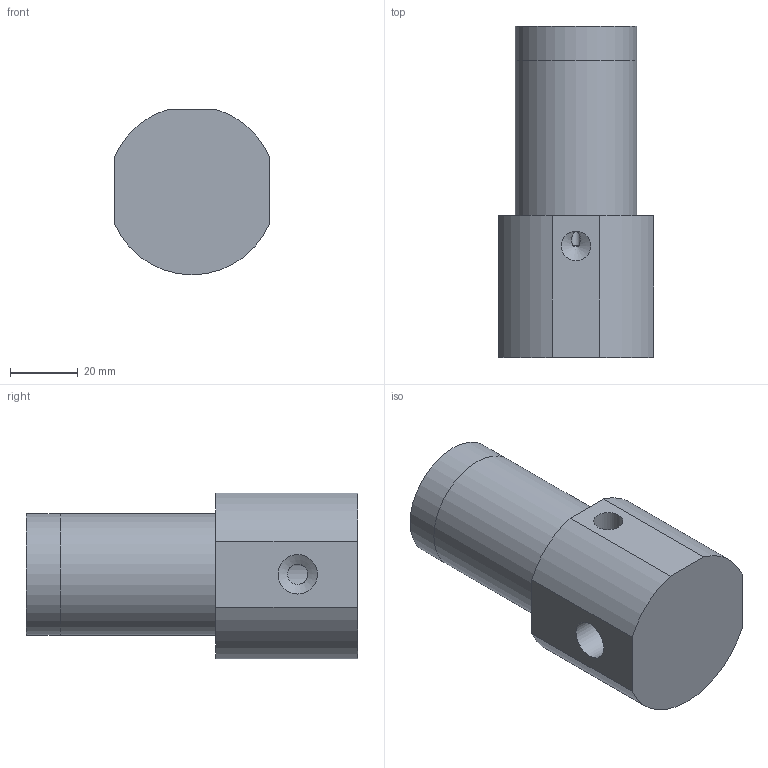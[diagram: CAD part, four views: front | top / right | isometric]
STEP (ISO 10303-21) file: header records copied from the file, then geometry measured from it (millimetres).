
FILE_DESCRIPTION(/* description */ (''),/* implementation_level */ '2;1');
FILE_NAME(/* name */ 'AerFLux 14XPU.step',/* time_stamp */ '2025-07-17T09:26:58+02:00',/* author */ (''),/* organization */ (''),/* preprocessor_version */ 'ST-DEVELOPER v20.1',/* originating_system */ 'Autodesk Translation Framework v14.10.0.0',/* authorisation */ '');
FILE_SCHEMA (('AUTOMOTIVE_DESIGN { 1 0 10303 214 3 1 1 }'));
Length unit declared in the file: millimetre
Products named in the file (4): 14XPU NC sito; corpo AerFlux 14XPU; tubo; testa posteriore
Assembly tree (3 placements, depth 2):
  14XPU NC sito
    corpo AerFlux 14XPU
    tubo
    testa posteriore
Bounding box: 46 x 98 x 49 mm (x, y, z)
Volume: 95321.4 mm3; surface area: 31760.5 mm2
Topology: 3 solids, 3 shells, 60 faces, 120 edges, 77 vertices
Faces by surface type: cylinder 30, plane 24, cone 6
Full cylindrical faces by diameter (mm): 2.5 x1, 6 x3, 8.707 x2, 11.668 x2, 14.5 x1, 18.5 x1, 19.97 x1, 20 x1, 20.5 x1, 22 x2, 28 x1, 31 x1, 31.5 x1, 32 x1, 33.526 x2, 34.85 x2, 36 x2
Entity records: 1808 total; most frequent: CARTESIAN_POINT 369, DIRECTION 310, ORIENTED_EDGE 236, AXIS2_PLACEMENT_3D 132, EDGE_CURVE 118, EDGE_LOOP 85, VERTEX_POINT 77, CIRCLE 62
